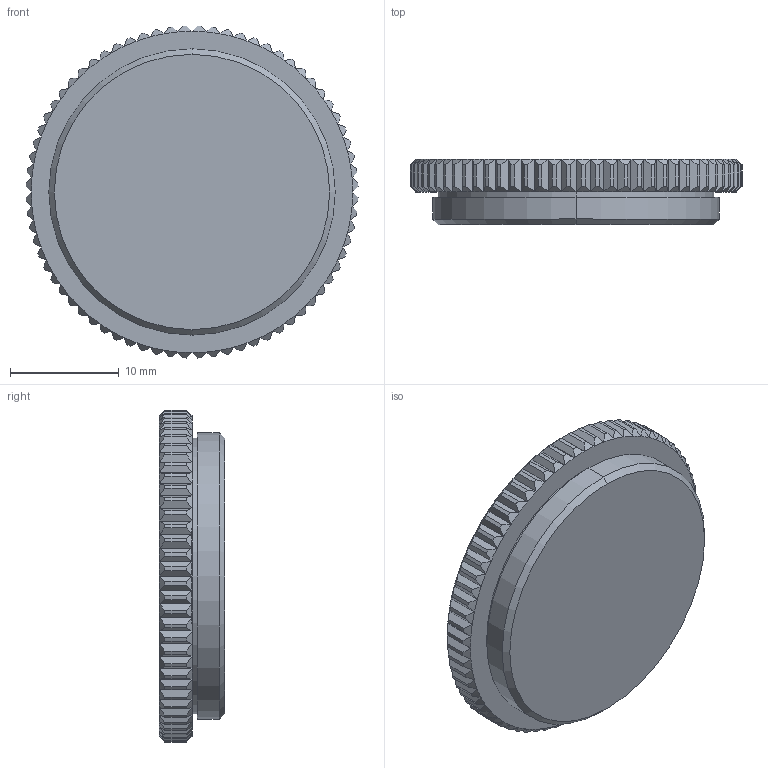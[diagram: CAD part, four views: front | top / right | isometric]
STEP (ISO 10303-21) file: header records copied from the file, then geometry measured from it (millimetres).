
FILE_DESCRIPTION (( 'STEP AP203' ), '1' );
FILE_NAME ('CM-26T07.STEP', '2021-10-15T03:03:48', ( '' ), ( '' ), 'SwSTEP 2.0', 'SolidWorks 2019', '' );
FILE_SCHEMA (( 'CONFIG_CONTROL_DESIGN' ));
Length unit declared in the file: millimetre
Products named in the file (1): CM-26T07
Bounding box: 30.48 x 6 x 30.48 mm (x, y, z)
Volume: 3724.5 mm3; surface area: 2053.3 mm2
Topology: 1 solids, 1 shells, 370 faces, 808 edges, 442 vertices
Faces by surface type: plane 148, cone 146, cylinder 76
Entity records: 10175 total; most frequent: CARTESIAN_POINT 2485, ORIENTED_EDGE 1616, DIRECTION 1560, EDGE_CURVE 808, AXIS2_PLACEMENT_3D 669, VERTEX_POINT 442, EDGE_LOOP 372, ADVANCED_FACE 370
